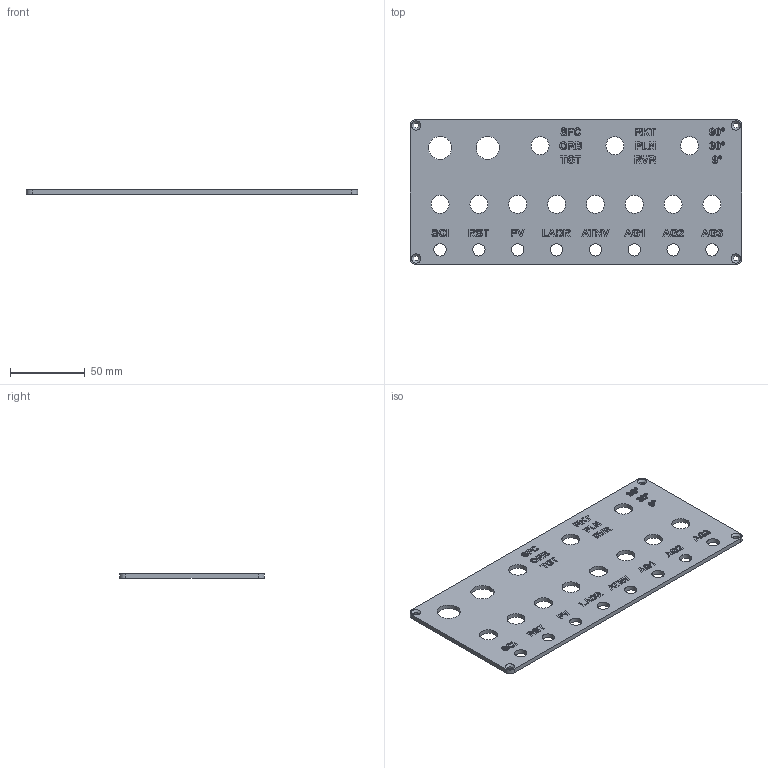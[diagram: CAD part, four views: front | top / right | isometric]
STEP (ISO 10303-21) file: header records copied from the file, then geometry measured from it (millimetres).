
FILE_DESCRIPTION(/* description */ (''),/* implementation_level */ '2;1');
FILE_NAME(/* name */ 'C:/Users/anton/Documents/Kerbal Space Program/Kerbal_Control_Panel/KCP2/CAD/STEPs/ModuleE_v9.step',/* time_stamp */ '2020-11-12T07:53:00-08:00',/* author */ (''),/* organization */ (''),/* preprocessor_version */ 'ST-DEVELOPER v18.1',/* originating_system */ 'Autodesk Translation Framework v9.3.0.1241',/* authorisation */ '');
FILE_SCHEMA (('AUTOMOTIVE_DESIGN { 1 0 10303 214 3 1 1 }'));
Length unit declared in the file: millimetre
Products named in the file (2): E-Plate; Labels
Assembly tree (1 placements, depth 2):
  E-Plate
    Labels
Bounding box: 222 x 97 x 3.02 mm (x, y, z)
Volume: 58257.2 mm3; surface area: 44081.4 mm2
Topology: 52 solids, 52 shells, 1035 faces, 2789 edges, 1858 vertices
Faces by surface type: bspline 572, plane 430, cylinder 29, cone 4
Full cylindrical faces by diameter (mm): 3.4 x4, 8.25 x8, 12 x11, 15.5 x2
Entity records: 37748 total; most frequent: CARTESIAN_POINT 15409, ORIENTED_EDGE 5578, EDGE_CURVE 2789, DIRECTION 2639, VERTEX_POINT 1858, LINE 1583, VECTOR 1583, B_SPLINE_CURVE_WITH_KNOTS 1144
